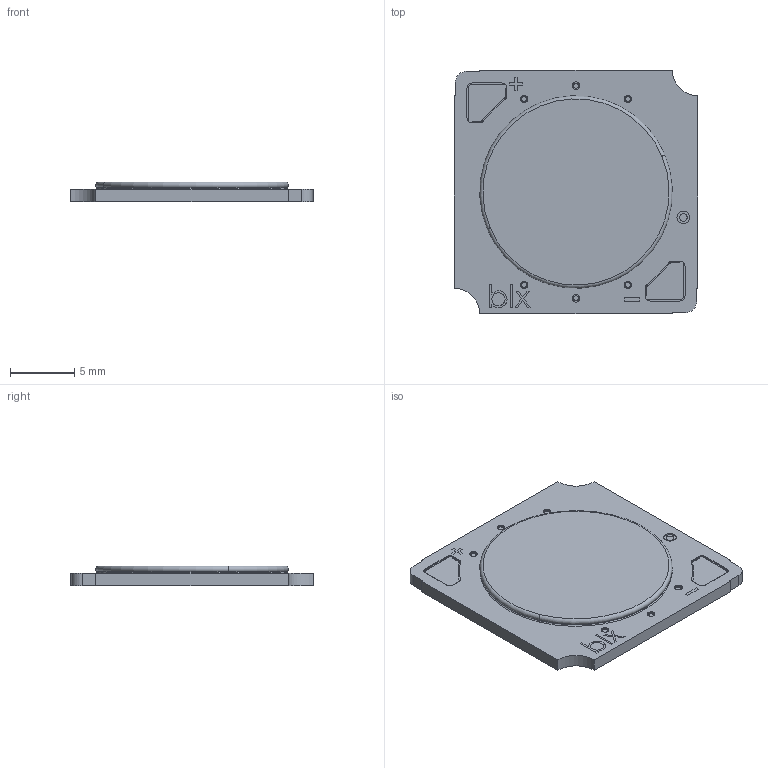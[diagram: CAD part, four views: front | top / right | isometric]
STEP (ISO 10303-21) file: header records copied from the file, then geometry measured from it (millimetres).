
FILE_DESCRIPTION (( 'STEP AP214' ), '1' );
FILE_NAME ('DW13 GEN3 Assemble.STEP', '2025-02-25T05:37:49', ( '' ), ( '' ), 'SwSTEP 2.0', 'SolidWorks 2018', '' );
FILE_SCHEMA (( 'AUTOMOTIVE_DESIGN' ));
Length unit declared in the file: millimetre
Products named in the file (1): DW13 GEN3 Assemble
Bounding box: 19 x 19 x 1.55 mm (x, y, z)
Volume: 448.1 mm3; surface area: 808.5 mm2
Topology: 1 solids, 1 shells, 164 faces, 409 edges, 270 vertices
Faces by surface type: plane 98, cylinder 52, bspline 8, torus 6
Entity records: 6867 total; most frequent: CARTESIAN_POINT 1058, DIRECTION 819, ORIENTED_EDGE 818, EDGE_CURVE 409, AXIS2_PLACEMENT_3D 279, VERTEX_POINT 270, VECTOR 261, LINE 261
